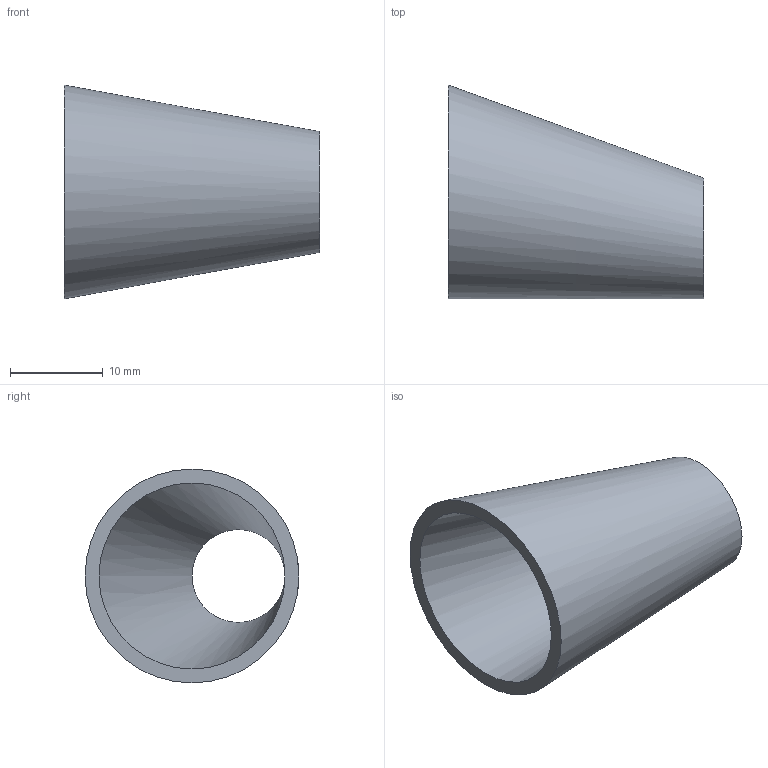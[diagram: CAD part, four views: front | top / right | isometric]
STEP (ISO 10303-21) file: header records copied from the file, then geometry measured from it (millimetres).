
FILE_DESCRIPTION(('FreeCAD Model'),'2;1');
FILE_NAME( '/home/martin/Documents/proyect/accesorios/stp/red-exc_DN20-10.step', '2017-12-31T13:01:46',('Author'),(''), 'Open CASCADE STEP processor 6.8','FreeCAD','Unknown');
FILE_SCHEMA(('AUTOMOTIVE_DESIGN_CC2 { 1 2 10303 214 -1 1 5 4 }'));
Length unit declared in the file: millimetre
Products named in the file (1): red-exc_DN20-10
Bounding box: 27.5 x 23 x 23 mm (x, y, z)
Volume: 2138.2 mm3; surface area: 3075.6 mm2
Topology: 1 solids, 1 shells, 4 faces, 6 edges, 4 vertices
Faces by surface type: bspline 2, plane 2
Entity records: 247 total; most frequent: CARTESIAN_POINT 87, DIRECTION 26, ORIENTED_EDGE 12, PCURVE 12, DEFINITIONAL_REPRESENTATION 12, CIRCLE 8, LINE 8, VECTOR 8
